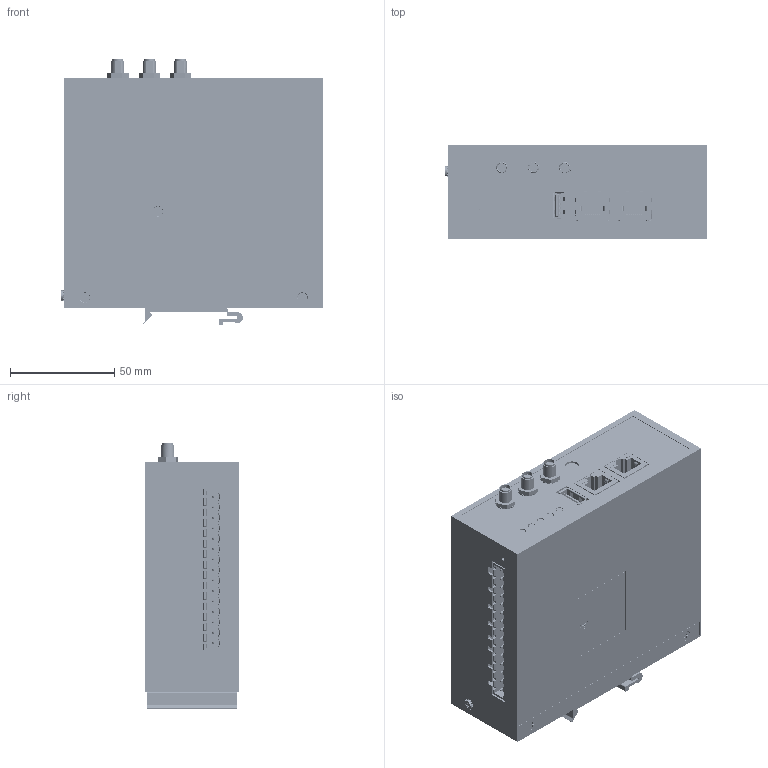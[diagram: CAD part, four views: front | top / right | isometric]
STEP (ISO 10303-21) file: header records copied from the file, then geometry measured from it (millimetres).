
FILE_DESCRIPTION(/* description */ ('Alibre Inc.'),/* implementation_level */ '2;1');
FILE_NAME(/* name */ 'export0',/* time_stamp */ '2012-10-03T10:29:08+02:00',/* author */ (''),/* organization */ (''),/* preprocessor_version */ 'ST-DEVELOPER v12',/* originating_system */ 'Alibre',/* authorisation */ '');
FILE_SCHEMA (('AUTOMOTIVE_DESIGN'));
Length unit declared in the file: centimetre
Bounding box: 125.75 x 45 x 127.5 mm (x, y, z)
Volume: 99932.1 mm3; surface area: 164381.5 mm2
Topology: 198 solids, 198 shells, 10079 faces, 27302 edges, 17543 vertices
Faces by surface type: plane 8235, cylinder 1703, cone 125, bspline 16
Full cylindrical faces by diameter (mm): 0.7 x64, 0.889 x24, 0.92 x5, 1 x24, 1.1 x3, 1.2 x10, 1.35 x4, 1.5 x16, 1.575 x4, 1.6 x3, 2.1 x3, 2.35 x2, 2.459 x12, 2.5 x6, 2.6 x8, 3 x9, 3.2 x12, 3.302 x4, 3.5 x5, 4.6 x3, 4.7 x3, 4.9 x1, 5 x3, 5.3 x3, 6.3 x9
Entity records: 198521 total; most frequent: CARTESIAN_POINT 37412, ORIENTED_EDGE 34874, DIRECTION 27700, EDGE_CURVE 17435, VECTOR 14366, LINE 14366, VERTEX_POINT 11130, AXIS2_PLACEMENT_3D 9050
